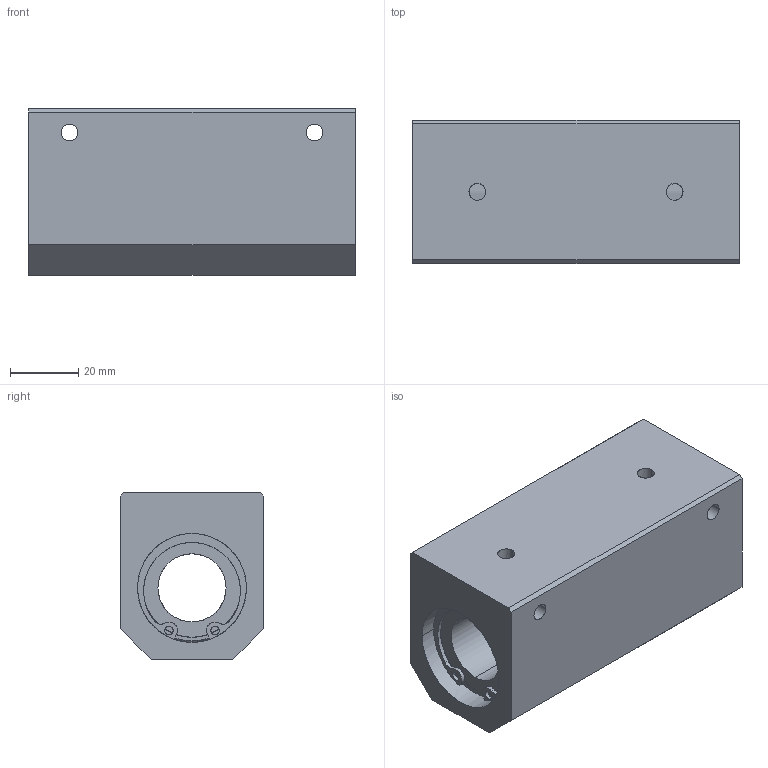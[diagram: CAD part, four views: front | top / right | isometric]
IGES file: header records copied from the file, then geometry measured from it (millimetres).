
Global section: file name: No Iges File Name specified; native system: AutoDesk Inventor R11.0; preprocessor: AutoDesk Inventor Iges Exporter R11.0; author: No Author specified; organization: No Organization specified; date: 20111024.132907; units: millimetre
Bounding box: 96 x 42 x 49 mm (x, y, z)
Surface area: 31675.6 mm2 (no closed solid volume)
Topology: 0 solids, 0 shells, 122 faces, 936 edges, 936 vertices
Faces by surface type: bspline 122
